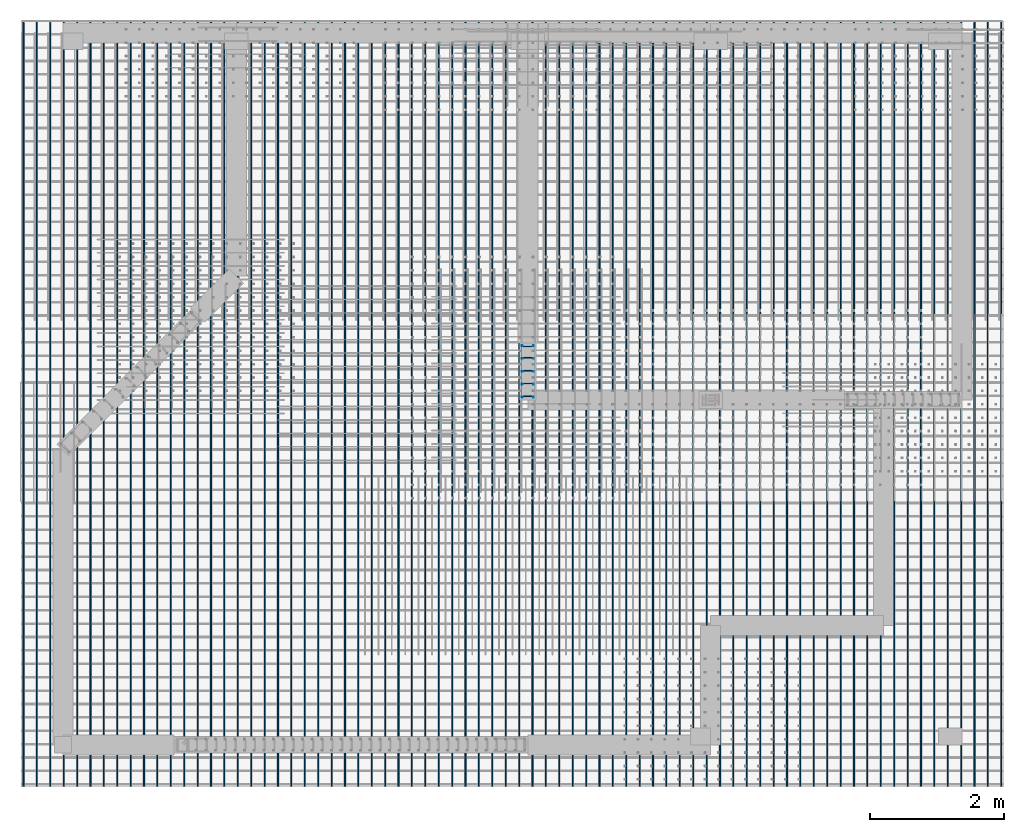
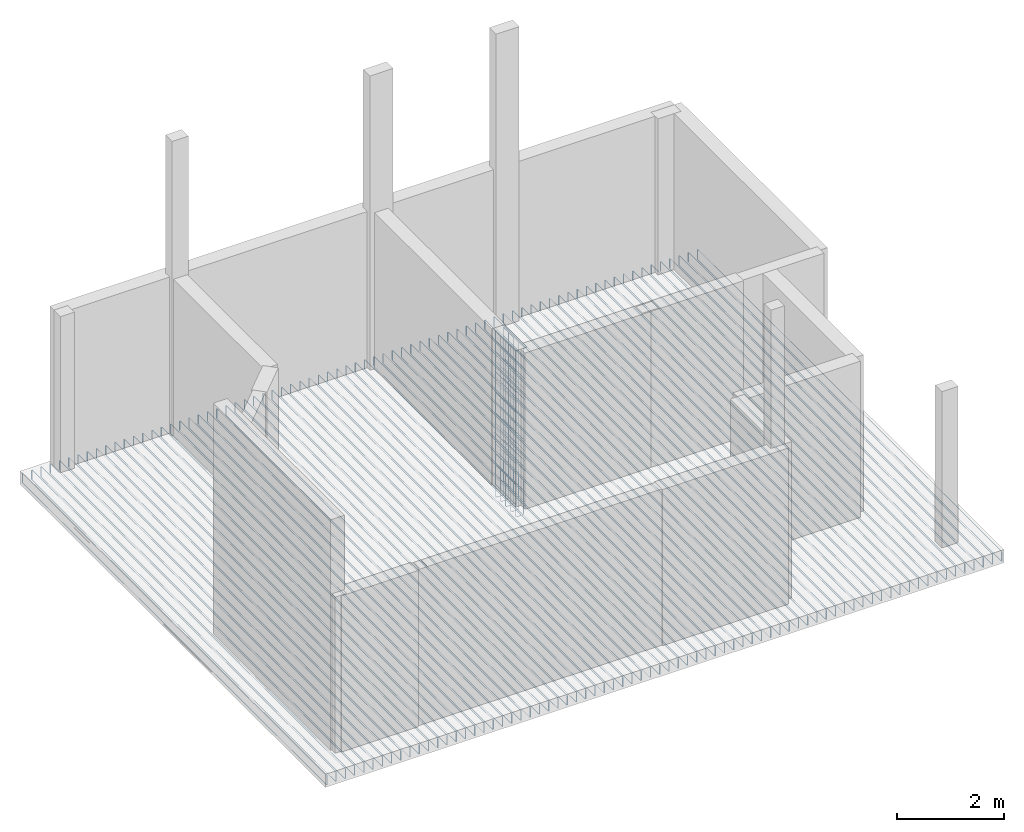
# One storey, part 5 of 8: 4 reinforcing bars.
"""IFC4 building model written with IfcOpenShell, lengths in metres."""

from ifc_helpers import new_model, entity, si_unit, origin_with_axes, place, context, project, spatial, source, transform, mapped, element, save


model = new_model("IFC4")

# Units and contexts
model_context = context("Model", 3, precision=1e-05, world=origin_with_axes())
ifc_project = project(units=[si_unit("LENGTHUNIT", "METRE"), si_unit("AREAUNIT", "SQUARE_METRE"), si_unit("VOLUMEUNIT", "CUBIC_METRE"), si_unit("MASSUNIT", "GRAM", prefix="KILO"), si_unit("TIMEUNIT", "SECOND"), si_unit("PLANEANGLEUNIT", "RADIAN"), si_unit("SOLIDANGLEUNIT", "STERADIAN"), si_unit("THERMODYNAMICTEMPERATUREUNIT", "DEGREE_CELSIUS")], contexts=[model_context])

# Site, building, storey
placement_1 = place(None, origin_with_axes())
site = spatial("IfcSite", under=ifc_project, at=placement_1, Name="Italia", CompositionType="ELEMENT")
building = spatial("IfcBuilding", under=site, at=placement_1, Name="Abitazione", CompositionType="ELEMENT")
storey = spatial("IfcBuildingStorey", under=building, at=placement_1, Name="Storey 0", CompositionType="ELEMENT", Elevation=0.0)

# Reinforcing bars
shared_shape_1 = source(origin_with_axes(), model_context, "Body", "AdvancedSweptSolid", [
    entity("IfcSweptDiskSolid", entity("IfcIndexedPolyCurve", entity("IfcCartesianPointList3D", [[8.046, 6.749, 0.0], [8.046, 6.749, 3.545]]), [entity("IfcLineIndex", [1, 2])], False), 0.006),
])
placement_2 = place(placement_1, origin_with_axes())
reinforcing_bar_1_placement = place(placement_2, origin_with_axes())
element("IfcReinforcingBar", 1, at=reinforcing_bar_1_placement, inside=storey, BarLength=3.545, CrossSectionArea=0.0001131, NominalDiameter=0.012, context=model_context, shape_type="MappedRepresentation", body=[
    mapped(shared_shape_1, transform((0.0, -0.576001, 0.0), x_axis=(1.0, 0.0, 0.0), y_axis=(0.0, 1.0, 0.0), z_axis=(0.0, 0.0, 1.0), scale=1.0)),
    mapped(shared_shape_1, transform((0.167999, -0.384, 0.0), x_axis=(1.0, 0.0, 0.0), y_axis=(0.0, 1.0, 0.0), z_axis=(0.0, 0.0, 1.0), scale=1.0)),
    mapped(shared_shape_1, transform((0.0, -0.768001, 0.0), x_axis=(1.0, 0.0, 0.0), y_axis=(0.0, 1.0, 0.0), z_axis=(0.0, 0.0, 1.0), scale=1.0)),
    mapped(shared_shape_1, transform((0.167999, -0.576001, 0.0), x_axis=(1.0, 0.0, 0.0), y_axis=(0.0, 1.0, 0.0), z_axis=(0.0, 0.0, 1.0), scale=1.0)),
    mapped(shared_shape_1, transform((0.0, 0.0, 0.0), x_axis=(1.0, 0.0, 0.0), y_axis=(0.0, 1.0, 0.0), z_axis=(0.0, 0.0, 1.0), scale=1.0)),
    mapped(shared_shape_1, transform((0.167999, -0.768001, 0.0), x_axis=(1.0, 0.0, 0.0), y_axis=(0.0, 1.0, 0.0), z_axis=(0.0, 0.0, 1.0), scale=1.0)),
    mapped(shared_shape_1, transform((0.0, -0.192, 0.0), x_axis=(1.0, 0.0, 0.0), y_axis=(0.0, 1.0, 0.0), z_axis=(0.0, 0.0, 1.0), scale=1.0)),
    mapped(shared_shape_1, transform((0.167999, 0.0, 0.0), x_axis=(1.0, 0.0, 0.0), y_axis=(0.0, 1.0, 0.0), z_axis=(0.0, 0.0, 1.0), scale=1.0)),
    mapped(shared_shape_1, transform((0.0, -0.384, 0.0), x_axis=(1.0, 0.0, 0.0), y_axis=(0.0, 1.0, 0.0), z_axis=(0.0, 0.0, 1.0), scale=1.0)),
    mapped(shared_shape_1, transform((0.167999, -0.192, 0.0), x_axis=(1.0, 0.0, 0.0), y_axis=(0.0, 1.0, 0.0), z_axis=(0.0, 0.0, 1.0), scale=1.0)),
])
shared_shape_2 = source(origin_with_axes(), model_context, "Body", "AdvancedSweptSolid", [
    entity("IfcSweptDiskSolid", entity("IfcIndexedPolyCurve", entity("IfcCartesianPointList3D", [[8.046, 6.737, 0.5], [8.046, 6.737, -0.245], [8.04828, 6.737, -0.256481], [8.05479, 6.737, -0.266213], [8.06452, 6.737, -0.272716], [8.076, 6.737, -0.275], [8.146, 6.737, -0.275]]), [entity("IfcLineIndex", [1, 2]), entity("IfcLineIndex", [2, 3]), entity("IfcLineIndex", [3, 4]), entity("IfcLineIndex", [4, 5]), entity("IfcLineIndex", [5, 6]), entity("IfcLineIndex", [6, 7])], False), 0.006),
])
reinforcing_bar_2_placement = place(placement_2, origin_with_axes())
element("IfcReinforcingBar", 2, at=reinforcing_bar_2_placement, inside=storey, BarLength=0.861821, CrossSectionArea=0.0001131, NominalDiameter=0.012, context=model_context, shape_type="MappedRepresentation", body=[
    mapped(shared_shape_2, transform((0.0, -0.552001, 0.0), x_axis=(1.0, 0.0, 0.0), y_axis=(0.0, 1.0, 0.0), z_axis=(0.0, 0.0, 1.0), scale=1.0)),
    mapped(shared_shape_2, transform((16.26, 13.114, 0.0), x_axis=(-1.0, 0.0, 0.0), y_axis=(0.0, -1.0, 0.0), z_axis=(0.0, 0.0, 1.0), scale=1.0)),
    mapped(shared_shape_2, transform((0.0, -0.744001, 0.0), x_axis=(1.0, 0.0, 0.0), y_axis=(0.0, 1.0, 0.0), z_axis=(0.0, 0.0, 1.0), scale=1.0)),
    mapped(shared_shape_2, transform((16.26, 12.922, 0.0), x_axis=(-1.0, 0.0, 0.0), y_axis=(0.0, -1.0, 0.0), z_axis=(0.0, 0.0, 1.0), scale=1.0)),
    mapped(shared_shape_2, transform((0.0, 0.0, 0.0), x_axis=(1.0, 0.0, 0.0), y_axis=(0.0, 1.0, 0.0), z_axis=(0.0, 0.0, 1.0), scale=1.0)),
    mapped(shared_shape_2, transform((16.26, 12.73, 0.0), x_axis=(-1.0, 0.0, 0.0), y_axis=(0.0, -1.0, 0.0), z_axis=(0.0, 0.0, 1.0), scale=1.0)),
    mapped(shared_shape_2, transform((0.0, -0.168, 0.0), x_axis=(1.0, 0.0, 0.0), y_axis=(0.0, 1.0, 0.0), z_axis=(0.0, 0.0, 1.0), scale=1.0)),
    mapped(shared_shape_2, transform((16.26, 13.474, 0.0), x_axis=(-1.0, 0.0, 0.0), y_axis=(0.0, -1.0, 0.0), z_axis=(0.0, 0.0, 1.0), scale=1.0)),
    mapped(shared_shape_2, transform((0.0, -0.360001, 0.0), x_axis=(1.0, 0.0, 0.0), y_axis=(0.0, 1.0, 0.0), z_axis=(0.0, 0.0, 1.0), scale=1.0)),
    mapped(shared_shape_2, transform((16.26, 13.306, 0.0), x_axis=(-1.0, 0.0, 0.0), y_axis=(0.0, -1.0, 0.0), z_axis=(0.0, 0.0, 1.0), scale=1.0)),
])
shared_shape_3 = source(origin_with_axes(), model_context, "Body", "AdvancedSweptSolid", [
    entity("IfcSweptDiskSolid", entity("IfcIndexedPolyCurve", entity("IfcCartesianPointList3D", [[8.225, 6.76, 0.03], [8.225, 5.97, 0.03]]), [entity("IfcLineIndex", [1, 2])], False), 0.005),
])
reinforcing_bar_3_placement = place(placement_2, origin_with_axes())
element("IfcReinforcingBar", 3, at=reinforcing_bar_3_placement, inside=storey, BarLength=0.79, CrossSectionArea=7.854e-05, NominalDiameter=0.01, context=model_context, shape_type="MappedRepresentation", body=[
    mapped(shared_shape_3, transform((0.0, 0.0, 2.34), x_axis=(1.0, 0.0, 0.0), y_axis=(0.0, 1.0, 0.0), z_axis=(0.0, 0.0, 1.0), scale=1.0)),
    mapped(shared_shape_3, transform((0.0, 0.0, 2.574), x_axis=(1.0, 0.0, 0.0), y_axis=(0.0, 1.0, 0.0), z_axis=(0.0, 0.0, 1.0), scale=1.0)),
    mapped(shared_shape_3, transform((0.0, 0.0, 1.872), x_axis=(1.0, 0.0, 0.0), y_axis=(0.0, 1.0, 0.0), z_axis=(0.0, 0.0, 1.0), scale=1.0)),
    mapped(shared_shape_3, transform((0.0, 0.0, 2.106), x_axis=(1.0, 0.0, 0.0), y_axis=(0.0, 1.0, 0.0), z_axis=(0.0, 0.0, 1.0), scale=1.0)),
    mapped(shared_shape_3, transform((0.0, 0.0, 3.276), x_axis=(1.0, 0.0, 0.0), y_axis=(0.0, 1.0, 0.0), z_axis=(0.0, 0.0, 1.0), scale=1.0)),
    mapped(shared_shape_3, transform((0.0, 0.0, 3.51), x_axis=(1.0, 0.0, 0.0), y_axis=(0.0, 1.0, 0.0), z_axis=(0.0, 0.0, 1.0), scale=1.0)),
    mapped(shared_shape_3, transform((0.0, 0.0, 2.808), x_axis=(1.0, 0.0, 0.0), y_axis=(0.0, 1.0, 0.0), z_axis=(0.0, 0.0, 1.0), scale=1.0)),
    mapped(shared_shape_3, transform((0.0, 0.0, 3.042), x_axis=(1.0, 0.0, 0.0), y_axis=(0.0, 1.0, 0.0), z_axis=(0.0, 0.0, 1.0), scale=1.0)),
    mapped(shared_shape_3, transform((0.0, 0.0, 0.468), x_axis=(1.0, 0.0, 0.0), y_axis=(0.0, 1.0, 0.0), z_axis=(0.0, 0.0, 1.0), scale=1.0)),
    mapped(shared_shape_3, transform((0.0, 0.0, 0.702), x_axis=(1.0, 0.0, 0.0), y_axis=(0.0, 1.0, 0.0), z_axis=(0.0, 0.0, 1.0), scale=1.0)),
    mapped(shared_shape_3, transform((16.26, 12.73, 0.0), x_axis=(-1.0, 0.0, 0.0), y_axis=(0.0, -1.0, 0.0), z_axis=(0.0, 0.0, 1.0), scale=1.0)),
    mapped(shared_shape_3, transform((0.0, 0.0, 0.0), x_axis=(1.0, 0.0, 0.0), y_axis=(0.0, 1.0, 0.0), z_axis=(0.0, 0.0, 1.0), scale=1.0)),
    mapped(shared_shape_3, transform((16.26, 12.73, 0.234), x_axis=(-1.0, 0.0, 0.0), y_axis=(0.0, -1.0, 0.0), z_axis=(0.0, 0.0, 1.0), scale=1.0)),
    mapped(shared_shape_3, transform((0.0, 0.0, 0.234), x_axis=(1.0, 0.0, 0.0), y_axis=(0.0, 1.0, 0.0), z_axis=(0.0, 0.0, 1.0), scale=1.0)),
    mapped(shared_shape_3, transform((16.26, 12.73, 0.468), x_axis=(-1.0, 0.0, 0.0), y_axis=(0.0, -1.0, 0.0), z_axis=(0.0, 0.0, 1.0), scale=1.0)),
    mapped(shared_shape_3, transform((16.26, 12.73, 0.702), x_axis=(-1.0, 0.0, 0.0), y_axis=(0.0, -1.0, 0.0), z_axis=(0.0, 0.0, 1.0), scale=1.0)),
    mapped(shared_shape_3, transform((0.0, 0.0, 1.404), x_axis=(1.0, 0.0, 0.0), y_axis=(0.0, 1.0, 0.0), z_axis=(0.0, 0.0, 1.0), scale=1.0)),
    mapped(shared_shape_3, transform((0.0, 0.0, 1.638), x_axis=(1.0, 0.0, 0.0), y_axis=(0.0, 1.0, 0.0), z_axis=(0.0, 0.0, 1.0), scale=1.0)),
    mapped(shared_shape_3, transform((16.26, 12.73, 0.936), x_axis=(-1.0, 0.0, 0.0), y_axis=(0.0, -1.0, 0.0), z_axis=(0.0, 0.0, 1.0), scale=1.0)),
    mapped(shared_shape_3, transform((0.0, 0.0, 0.936), x_axis=(1.0, 0.0, 0.0), y_axis=(0.0, 1.0, 0.0), z_axis=(0.0, 0.0, 1.0), scale=1.0)),
    mapped(shared_shape_3, transform((16.26, 12.73, 1.17), x_axis=(-1.0, 0.0, 0.0), y_axis=(0.0, -1.0, 0.0), z_axis=(0.0, 0.0, 1.0), scale=1.0)),
    mapped(shared_shape_3, transform((0.0, 0.0, 1.17), x_axis=(1.0, 0.0, 0.0), y_axis=(0.0, 1.0, 0.0), z_axis=(0.0, 0.0, 1.0), scale=1.0)),
    mapped(shared_shape_3, transform((16.26, 12.73, 2.34), x_axis=(-1.0, 0.0, 0.0), y_axis=(0.0, -1.0, 0.0), z_axis=(0.0, 0.0, 1.0), scale=1.0)),
    mapped(shared_shape_3, transform((16.26, 12.73, 2.574), x_axis=(-1.0, 0.0, 0.0), y_axis=(0.0, -1.0, 0.0), z_axis=(0.0, 0.0, 1.0), scale=1.0)),
    mapped(shared_shape_3, transform((16.26, 12.73, 1.872), x_axis=(-1.0, 0.0, 0.0), y_axis=(0.0, -1.0, 0.0), z_axis=(0.0, 0.0, 1.0), scale=1.0)),
    mapped(shared_shape_3, transform((16.26, 12.73, 2.106), x_axis=(-1.0, 0.0, 0.0), y_axis=(0.0, -1.0, 0.0), z_axis=(0.0, 0.0, 1.0), scale=1.0)),
    mapped(shared_shape_3, transform((16.26, 12.73, 3.276), x_axis=(-1.0, 0.0, 0.0), y_axis=(0.0, -1.0, 0.0), z_axis=(0.0, 0.0, 1.0), scale=1.0)),
    mapped(shared_shape_3, transform((16.26, 12.73, 3.51), x_axis=(-1.0, 0.0, 0.0), y_axis=(0.0, -1.0, 0.0), z_axis=(0.0, 0.0, 1.0), scale=1.0)),
    mapped(shared_shape_3, transform((16.26, 12.73, 2.808), x_axis=(-1.0, 0.0, 0.0), y_axis=(0.0, -1.0, 0.0), z_axis=(0.0, 0.0, 1.0), scale=1.0)),
    mapped(shared_shape_3, transform((16.26, 12.73, 3.042), x_axis=(-1.0, 0.0, 0.0), y_axis=(0.0, -1.0, 0.0), z_axis=(0.0, 0.0, 1.0), scale=1.0)),
    mapped(shared_shape_3, transform((16.26, 12.73, 1.404), x_axis=(-1.0, 0.0, 0.0), y_axis=(0.0, -1.0, 0.0), z_axis=(0.0, 0.0, 1.0), scale=1.0)),
    mapped(shared_shape_3, transform((16.26, 12.73, 1.638), x_axis=(-1.0, 0.0, 0.0), y_axis=(0.0, -1.0, 0.0), z_axis=(0.0, 0.0, 1.0), scale=1.0)),
])
shared_shape_4 = source(origin_with_axes(), model_context, "Body", "AdvancedSweptSolid", [
    entity("IfcSweptDiskSolid", entity("IfcIndexedPolyCurve", entity("IfcCartesianPointList3D", [[0.606, 0.172, -0.258], [0.606, 0.172, -0.052], [0.606, 0.172761, -0.0481732], [0.606, 0.174929, -0.0449289], [0.606, 0.178173, -0.0427612], [0.606, 0.182, -0.042], [0.606, 11.566, -0.042], [0.606, 11.5698, -0.0427612], [0.606, 11.5731, -0.0449289], [0.606, 11.5752, -0.0481732], [0.606, 11.576, -0.052], [0.606, 11.576, -0.258]]), [entity("IfcLineIndex", [1, 2]), entity("IfcLineIndex", [2, 3]), entity("IfcLineIndex", [3, 4]), entity("IfcLineIndex", [4, 5]), entity("IfcLineIndex", [5, 6]), entity("IfcLineIndex", [6, 7]), entity("IfcLineIndex", [7, 8]), entity("IfcLineIndex", [8, 9]), entity("IfcLineIndex", [9, 10]), entity("IfcLineIndex", [10, 11]), entity("IfcLineIndex", [11, 12])], False), 0.006),
])
reinforcing_bar_4_placement = place(placement_2, origin_with_axes())
element("IfcReinforcingBar", 4, at=reinforcing_bar_4_placement, inside=storey, BarLength=11.8272, CrossSectionArea=0.0001131, NominalDiameter=0.012, context=model_context, shape_type="MappedRepresentation", body=[
    mapped(shared_shape_4, transform((8.0, 0.0, -0.3), x_axis=(-1.0, 0.0, 0.0), y_axis=(0.0, 1.0, 0.0), z_axis=(0.0, 0.0, -1.0), scale=1.0)),
    mapped(shared_shape_4, transform((7.8, 0.0, -0.3), x_axis=(-1.0, 0.0, 0.0), y_axis=(0.0, 1.0, 0.0), z_axis=(0.0, 0.0, -1.0), scale=1.0)),
    mapped(shared_shape_4, transform((8.4, 0.0, -0.3), x_axis=(-1.0, 0.0, 0.0), y_axis=(0.0, 1.0, 0.0), z_axis=(0.0, 0.0, -1.0), scale=1.0)),
    mapped(shared_shape_4, transform((8.2, 0.0, -0.3), x_axis=(-1.0, 0.0, 0.0), y_axis=(0.0, 1.0, 0.0), z_axis=(0.0, 0.0, -1.0), scale=1.0)),
    mapped(shared_shape_4, transform((5.4, 0.0, -0.3), x_axis=(-1.0, 0.0, 0.0), y_axis=(0.0, 1.0, 0.0), z_axis=(0.0, 0.0, -1.0), scale=1.0)),
    mapped(shared_shape_4, transform((5.2, 0.0, -0.3), x_axis=(-1.0, 0.0, 0.0), y_axis=(0.0, 1.0, 0.0), z_axis=(0.0, 0.0, -1.0), scale=1.0)),
    mapped(shared_shape_4, transform((5.8, 0.0, -0.3), x_axis=(-1.0, 0.0, 0.0), y_axis=(0.0, 1.0, 0.0), z_axis=(0.0, 0.0, -1.0), scale=1.0)),
    mapped(shared_shape_4, transform((5.6, 0.0, -0.3), x_axis=(-1.0, 0.0, 0.0), y_axis=(0.0, 1.0, 0.0), z_axis=(0.0, 0.0, -1.0), scale=1.0)),
    mapped(shared_shape_4, transform((6.4, 0.0, -0.3), x_axis=(-1.0, 0.0, 0.0), y_axis=(0.0, 1.0, 0.0), z_axis=(0.0, 0.0, -1.0), scale=1.0)),
    mapped(shared_shape_4, transform((6.2, 0.0, -0.3), x_axis=(-1.0, 0.0, 0.0), y_axis=(0.0, 1.0, 0.0), z_axis=(0.0, 0.0, -1.0), scale=1.0)),
    mapped(shared_shape_4, transform((5.0, 0.0, -0.3), x_axis=(-1.0, 0.0, 0.0), y_axis=(0.0, 1.0, 0.0), z_axis=(0.0, 0.0, -1.0), scale=1.0)),
    mapped(shared_shape_4, transform((6.6, 0.0, -0.3), x_axis=(-1.0, 0.0, 0.0), y_axis=(0.0, 1.0, 0.0), z_axis=(0.0, 0.0, -1.0), scale=1.0)),
    mapped(shared_shape_4, transform((7.4, 0.0, -0.3), x_axis=(-1.0, 0.0, 0.0), y_axis=(0.0, 1.0, 0.0), z_axis=(0.0, 0.0, -1.0), scale=1.0)),
    mapped(shared_shape_4, transform((7.2, 0.0, -0.3), x_axis=(-1.0, 0.0, 0.0), y_axis=(0.0, 1.0, 0.0), z_axis=(0.0, 0.0, -1.0), scale=1.0)),
    mapped(shared_shape_4, transform((6.0, 0.0, -0.3), x_axis=(-1.0, 0.0, 0.0), y_axis=(0.0, 1.0, 0.0), z_axis=(0.0, 0.0, -1.0), scale=1.0)),
    mapped(shared_shape_4, transform((7.6, 0.0, -0.3), x_axis=(-1.0, 0.0, 0.0), y_axis=(0.0, 1.0, 0.0), z_axis=(0.0, 0.0, -1.0), scale=1.0)),
    mapped(shared_shape_4, transform((4.8, 0.0, -0.3), x_axis=(-1.0, 0.0, 0.0), y_axis=(0.0, 1.0, 0.0), z_axis=(0.0, 0.0, -1.0), scale=1.0)),
    mapped(shared_shape_4, transform((4.6, 0.0, -0.3), x_axis=(-1.0, 0.0, 0.0), y_axis=(0.0, 1.0, 0.0), z_axis=(0.0, 0.0, -1.0), scale=1.0)),
    mapped(shared_shape_4, transform((7.0, 0.0, -0.3), x_axis=(-1.0, 0.0, 0.0), y_axis=(0.0, 1.0, 0.0), z_axis=(0.0, 0.0, -1.0), scale=1.0)),
    mapped(shared_shape_4, transform((6.8, 0.0, -0.3), x_axis=(-1.0, 0.0, 0.0), y_axis=(0.0, 1.0, 0.0), z_axis=(0.0, 0.0, -1.0), scale=1.0)),
    mapped(shared_shape_4, transform((2.2, 0.0, -0.3), x_axis=(-1.0, 0.0, 0.0), y_axis=(0.0, 1.0, 0.0), z_axis=(0.0, 0.0, -1.0), scale=1.0)),
    mapped(shared_shape_4, transform((2.0, 0.0, -0.3), x_axis=(-1.0, 0.0, 0.0), y_axis=(0.0, 1.0, 0.0), z_axis=(0.0, 0.0, -1.0), scale=1.0)),
    mapped(shared_shape_4, transform((4.4, 0.0, -0.3), x_axis=(-1.0, 0.0, 0.0), y_axis=(0.0, 1.0, 0.0), z_axis=(0.0, 0.0, -1.0), scale=1.0)),
    mapped(shared_shape_4, transform((4.2, 0.0, -0.3), x_axis=(-1.0, 0.0, 0.0), y_axis=(0.0, 1.0, 0.0), z_axis=(0.0, 0.0, -1.0), scale=1.0)),
    mapped(shared_shape_4, transform((1.4, 0.0, -0.3), x_axis=(-1.0, 0.0, 0.0), y_axis=(0.0, 1.0, 0.0), z_axis=(0.0, 0.0, -1.0), scale=1.0)),
    mapped(shared_shape_4, transform((3.0, 0.0, -0.3), x_axis=(-1.0, 0.0, 0.0), y_axis=(0.0, 1.0, 0.0), z_axis=(0.0, 0.0, -1.0), scale=1.0)),
    mapped(shared_shape_4, transform((1.8, 0.0, -0.3), x_axis=(-1.0, 0.0, 0.0), y_axis=(0.0, 1.0, 0.0), z_axis=(0.0, 0.0, -1.0), scale=1.0)),
    mapped(shared_shape_4, transform((1.6, 0.0, -0.3), x_axis=(-1.0, 0.0, 0.0), y_axis=(0.0, 1.0, 0.0), z_axis=(0.0, 0.0, -1.0), scale=1.0)),
    mapped(shared_shape_4, transform((2.4, 0.0, -0.3), x_axis=(-1.0, 0.0, 0.0), y_axis=(0.0, 1.0, 0.0), z_axis=(0.0, 0.0, -1.0), scale=1.0)),
    mapped(shared_shape_4, transform((4.0, 0.0, -0.3), x_axis=(-1.0, 0.0, 0.0), y_axis=(0.0, 1.0, 0.0), z_axis=(0.0, 0.0, -1.0), scale=1.0)),
    mapped(shared_shape_4, transform((2.8, 0.0, -0.3), x_axis=(-1.0, 0.0, 0.0), y_axis=(0.0, 1.0, 0.0), z_axis=(0.0, 0.0, -1.0), scale=1.0)),
    mapped(shared_shape_4, transform((2.6, 0.0, -0.3), x_axis=(-1.0, 0.0, 0.0), y_axis=(0.0, 1.0, 0.0), z_axis=(0.0, 0.0, -1.0), scale=1.0)),
    mapped(shared_shape_4, transform((3.4, 0.0, -0.3), x_axis=(-1.0, 0.0, 0.0), y_axis=(0.0, 1.0, 0.0), z_axis=(0.0, 0.0, -1.0), scale=1.0)),
    mapped(shared_shape_4, transform((3.2, 0.0, -0.3), x_axis=(-1.0, 0.0, 0.0), y_axis=(0.0, 1.0, 0.0), z_axis=(0.0, 0.0, -1.0), scale=1.0)),
    mapped(shared_shape_4, transform((3.8, 0.0, -0.3), x_axis=(-1.0, 0.0, 0.0), y_axis=(0.0, 1.0, 0.0), z_axis=(0.0, 0.0, -1.0), scale=1.0)),
    mapped(shared_shape_4, transform((3.6, 0.0, -0.3), x_axis=(-1.0, 0.0, 0.0), y_axis=(0.0, 1.0, 0.0), z_axis=(0.0, 0.0, -1.0), scale=1.0)),
    mapped(shared_shape_4, transform((15.6, 0.0, -0.3), x_axis=(-1.0, 0.0, 0.0), y_axis=(0.0, 1.0, 0.0), z_axis=(0.0, 0.0, -1.0), scale=1.0)),
    mapped(shared_shape_4, transform((15.4, 0.0, -0.3), x_axis=(-1.0, 0.0, 0.0), y_axis=(0.0, 1.0, 0.0), z_axis=(0.0, 0.0, -1.0), scale=1.0)),
    mapped(shared_shape_4, transform((1.2, 0.0, -0.3), x_axis=(-1.0, 0.0, 0.0), y_axis=(0.0, 1.0, 0.0), z_axis=(0.0, 0.0, -1.0), scale=1.0)),
    mapped(shared_shape_4, transform((15.8, 0.0, -0.3), x_axis=(-1.0, 0.0, 0.0), y_axis=(0.0, 1.0, 0.0), z_axis=(0.0, 0.0, -1.0), scale=1.0)),
    mapped(shared_shape_4, transform((13.0, 0.0, -0.3), x_axis=(-1.0, 0.0, 0.0), y_axis=(0.0, 1.0, 0.0), z_axis=(0.0, 0.0, -1.0), scale=1.0)),
    mapped(shared_shape_4, transform((12.8, 0.0, -0.3), x_axis=(-1.0, 0.0, 0.0), y_axis=(0.0, 1.0, 0.0), z_axis=(0.0, 0.0, -1.0), scale=1.0)),
    mapped(shared_shape_4, transform((13.4, 0.0, -0.3), x_axis=(-1.0, 0.0, 0.0), y_axis=(0.0, 1.0, 0.0), z_axis=(0.0, 0.0, -1.0), scale=1.0)),
    mapped(shared_shape_4, transform((13.2, 0.0, -0.3), x_axis=(-1.0, 0.0, 0.0), y_axis=(0.0, 1.0, 0.0), z_axis=(0.0, 0.0, -1.0), scale=1.0)),
    mapped(shared_shape_4, transform((14.0, 0.0, -0.3), x_axis=(-1.0, 0.0, 0.0), y_axis=(0.0, 1.0, 0.0), z_axis=(0.0, 0.0, -1.0), scale=1.0)),
    mapped(shared_shape_4, transform((13.8, 0.0, -0.3), x_axis=(-1.0, 0.0, 0.0), y_axis=(0.0, 1.0, 0.0), z_axis=(0.0, 0.0, -1.0), scale=1.0)),
    mapped(shared_shape_4, transform((12.6, 0.0, -0.3), x_axis=(-1.0, 0.0, 0.0), y_axis=(0.0, 1.0, 0.0), z_axis=(0.0, 0.0, -1.0), scale=1.0)),
    mapped(shared_shape_4, transform((14.2, 0.0, -0.3), x_axis=(-1.0, 0.0, 0.0), y_axis=(0.0, 1.0, 0.0), z_axis=(0.0, 0.0, -1.0), scale=1.0)),
    mapped(shared_shape_4, transform((15.0, 0.0, -0.3), x_axis=(-1.0, 0.0, 0.0), y_axis=(0.0, 1.0, 0.0), z_axis=(0.0, 0.0, -1.0), scale=1.0)),
    mapped(shared_shape_4, transform((14.8, 0.0, -0.3), x_axis=(-1.0, 0.0, 0.0), y_axis=(0.0, 1.0, 0.0), z_axis=(0.0, 0.0, -1.0), scale=1.0)),
    mapped(shared_shape_4, transform((13.6, 0.0, -0.3), x_axis=(-1.0, 0.0, 0.0), y_axis=(0.0, 1.0, 0.0), z_axis=(0.0, 0.0, -1.0), scale=1.0)),
    mapped(shared_shape_4, transform((15.2, 0.0, -0.3), x_axis=(-1.0, 0.0, 0.0), y_axis=(0.0, 1.0, 0.0), z_axis=(0.0, 0.0, -1.0), scale=1.0)),
    mapped(shared_shape_4, transform((12.4, 0.0, -0.3), x_axis=(-1.0, 0.0, 0.0), y_axis=(0.0, 1.0, 0.0), z_axis=(0.0, 0.0, -1.0), scale=1.0)),
    mapped(shared_shape_4, transform((12.2, 0.0, -0.3), x_axis=(-1.0, 0.0, 0.0), y_axis=(0.0, 1.0, 0.0), z_axis=(0.0, 0.0, -1.0), scale=1.0)),
    mapped(shared_shape_4, transform((14.6, 0.0, -0.3), x_axis=(-1.0, 0.0, 0.0), y_axis=(0.0, 1.0, 0.0), z_axis=(0.0, 0.0, -1.0), scale=1.0)),
    mapped(shared_shape_4, transform((14.4, 0.0, -0.3), x_axis=(-1.0, 0.0, 0.0), y_axis=(0.0, 1.0, 0.0), z_axis=(0.0, 0.0, -1.0), scale=1.0)),
    mapped(shared_shape_4, transform((9.8, 0.0, -0.3), x_axis=(-1.0, 0.0, 0.0), y_axis=(0.0, 1.0, 0.0), z_axis=(0.0, 0.0, -1.0), scale=1.0)),
    mapped(shared_shape_4, transform((9.6, 0.0, -0.3), x_axis=(-1.0, 0.0, 0.0), y_axis=(0.0, 1.0, 0.0), z_axis=(0.0, 0.0, -1.0), scale=1.0)),
    mapped(shared_shape_4, transform((12.0, 0.0, -0.3), x_axis=(-1.0, 0.0, 0.0), y_axis=(0.0, 1.0, 0.0), z_axis=(0.0, 0.0, -1.0), scale=1.0)),
    mapped(shared_shape_4, transform((11.8, 0.0, -0.3), x_axis=(-1.0, 0.0, 0.0), y_axis=(0.0, 1.0, 0.0), z_axis=(0.0, 0.0, -1.0), scale=1.0)),
    mapped(shared_shape_4, transform((9.0, 0.0, -0.3), x_axis=(-1.0, 0.0, 0.0), y_axis=(0.0, 1.0, 0.0), z_axis=(0.0, 0.0, -1.0), scale=1.0)),
    mapped(shared_shape_4, transform((10.6, 0.0, -0.3), x_axis=(-1.0, 0.0, 0.0), y_axis=(0.0, 1.0, 0.0), z_axis=(0.0, 0.0, -1.0), scale=1.0)),
    mapped(shared_shape_4, transform((9.4, 0.0, -0.3), x_axis=(-1.0, 0.0, 0.0), y_axis=(0.0, 1.0, 0.0), z_axis=(0.0, 0.0, -1.0), scale=1.0)),
    mapped(shared_shape_4, transform((9.2, 0.0, -0.3), x_axis=(-1.0, 0.0, 0.0), y_axis=(0.0, 1.0, 0.0), z_axis=(0.0, 0.0, -1.0), scale=1.0)),
    mapped(shared_shape_4, transform((10.0, 0.0, -0.3), x_axis=(-1.0, 0.0, 0.0), y_axis=(0.0, 1.0, 0.0), z_axis=(0.0, 0.0, -1.0), scale=1.0)),
    mapped(shared_shape_4, transform((11.6, 0.0, -0.3), x_axis=(-1.0, 0.0, 0.0), y_axis=(0.0, 1.0, 0.0), z_axis=(0.0, 0.0, -1.0), scale=1.0)),
    mapped(shared_shape_4, transform((10.4, 0.0, -0.3), x_axis=(-1.0, 0.0, 0.0), y_axis=(0.0, 1.0, 0.0), z_axis=(0.0, 0.0, -1.0), scale=1.0)),
    mapped(shared_shape_4, transform((10.2, 0.0, -0.3), x_axis=(-1.0, 0.0, 0.0), y_axis=(0.0, 1.0, 0.0), z_axis=(0.0, 0.0, -1.0), scale=1.0)),
    mapped(shared_shape_4, transform((11.0, 0.0, -0.3), x_axis=(-1.0, 0.0, 0.0), y_axis=(0.0, 1.0, 0.0), z_axis=(0.0, 0.0, -1.0), scale=1.0)),
    mapped(shared_shape_4, transform((10.8, 0.0, -0.3), x_axis=(-1.0, 0.0, 0.0), y_axis=(0.0, 1.0, 0.0), z_axis=(0.0, 0.0, -1.0), scale=1.0)),
    mapped(shared_shape_4, transform((11.4, 0.0, -0.3), x_axis=(-1.0, 0.0, 0.0), y_axis=(0.0, 1.0, 0.0), z_axis=(0.0, 0.0, -1.0), scale=1.0)),
    mapped(shared_shape_4, transform((11.2, 0.0, -0.3), x_axis=(-1.0, 0.0, 0.0), y_axis=(0.0, 1.0, 0.0), z_axis=(0.0, 0.0, -1.0), scale=1.0)),
    mapped(shared_shape_4, transform((7.2, 0.0, 0.0), x_axis=(1.0, 0.0, 0.0), y_axis=(0.0, 1.0, 0.0), z_axis=(0.0, 0.0, 1.0), scale=1.0)),
    mapped(shared_shape_4, transform((7.0, 0.0, 0.0), x_axis=(1.0, 0.0, 0.0), y_axis=(0.0, 1.0, 0.0), z_axis=(0.0, 0.0, 1.0), scale=1.0)),
    mapped(shared_shape_4, transform((8.8, 0.0, -0.3), x_axis=(-1.0, 0.0, 0.0), y_axis=(0.0, 1.0, 0.0), z_axis=(0.0, 0.0, -1.0), scale=1.0)),
    mapped(shared_shape_4, transform((8.6, 0.0, -0.3), x_axis=(-1.0, 0.0, 0.0), y_axis=(0.0, 1.0, 0.0), z_axis=(0.0, 0.0, -1.0), scale=1.0)),
    mapped(shared_shape_4, transform((4.6, 0.0, 0.0), x_axis=(1.0, 0.0, 0.0), y_axis=(0.0, 1.0, 0.0), z_axis=(0.0, 0.0, 1.0), scale=1.0)),
    mapped(shared_shape_4, transform((4.4, 0.0, 0.0), x_axis=(1.0, 0.0, 0.0), y_axis=(0.0, 1.0, 0.0), z_axis=(0.0, 0.0, 1.0), scale=1.0)),
    mapped(shared_shape_4, transform((5.0, 0.0, 0.0), x_axis=(1.0, 0.0, 0.0), y_axis=(0.0, 1.0, 0.0), z_axis=(0.0, 0.0, 1.0), scale=1.0)),
    mapped(shared_shape_4, transform((4.8, 0.0, 0.0), x_axis=(1.0, 0.0, 0.0), y_axis=(0.0, 1.0, 0.0), z_axis=(0.0, 0.0, 1.0), scale=1.0)),
    mapped(shared_shape_4, transform((5.6, 0.0, 0.0), x_axis=(1.0, 0.0, 0.0), y_axis=(0.0, 1.0, 0.0), z_axis=(0.0, 0.0, 1.0), scale=1.0)),
    mapped(shared_shape_4, transform((5.4, 0.0, 0.0), x_axis=(1.0, 0.0, 0.0), y_axis=(0.0, 1.0, 0.0), z_axis=(0.0, 0.0, 1.0), scale=1.0)),
    mapped(shared_shape_4, transform((4.2, 0.0, 0.0), x_axis=(1.0, 0.0, 0.0), y_axis=(0.0, 1.0, 0.0), z_axis=(0.0, 0.0, 1.0), scale=1.0)),
    mapped(shared_shape_4, transform((5.8, 0.0, 0.0), x_axis=(1.0, 0.0, 0.0), y_axis=(0.0, 1.0, 0.0), z_axis=(0.0, 0.0, 1.0), scale=1.0)),
    mapped(shared_shape_4, transform((6.6, 0.0, 0.0), x_axis=(1.0, 0.0, 0.0), y_axis=(0.0, 1.0, 0.0), z_axis=(0.0, 0.0, 1.0), scale=1.0)),
    mapped(shared_shape_4, transform((6.4, 0.0, 0.0), x_axis=(1.0, 0.0, 0.0), y_axis=(0.0, 1.0, 0.0), z_axis=(0.0, 0.0, 1.0), scale=1.0)),
    mapped(shared_shape_4, transform((5.2, 0.0, 0.0), x_axis=(1.0, 0.0, 0.0), y_axis=(0.0, 1.0, 0.0), z_axis=(0.0, 0.0, 1.0), scale=1.0)),
    mapped(shared_shape_4, transform((6.8, 0.0, 0.0), x_axis=(1.0, 0.0, 0.0), y_axis=(0.0, 1.0, 0.0), z_axis=(0.0, 0.0, 1.0), scale=1.0)),
    mapped(shared_shape_4, transform((4.0, 0.0, 0.0), x_axis=(1.0, 0.0, 0.0), y_axis=(0.0, 1.0, 0.0), z_axis=(0.0, 0.0, 1.0), scale=1.0)),
    mapped(shared_shape_4, transform((3.8, 0.0, 0.0), x_axis=(1.0, 0.0, 0.0), y_axis=(0.0, 1.0, 0.0), z_axis=(0.0, 0.0, 1.0), scale=1.0)),
    mapped(shared_shape_4, transform((6.2, 0.0, 0.0), x_axis=(1.0, 0.0, 0.0), y_axis=(0.0, 1.0, 0.0), z_axis=(0.0, 0.0, 1.0), scale=1.0)),
    mapped(shared_shape_4, transform((6.0, 0.0, 0.0), x_axis=(1.0, 0.0, 0.0), y_axis=(0.0, 1.0, 0.0), z_axis=(0.0, 0.0, 1.0), scale=1.0)),
    mapped(shared_shape_4, transform((1.4, 0.0, 0.0), x_axis=(1.0, 0.0, 0.0), y_axis=(0.0, 1.0, 0.0), z_axis=(0.0, 0.0, 1.0), scale=1.0)),
    mapped(shared_shape_4, transform((1.2, 0.0, 0.0), x_axis=(1.0, 0.0, 0.0), y_axis=(0.0, 1.0, 0.0), z_axis=(0.0, 0.0, 1.0), scale=1.0)),
    mapped(shared_shape_4, transform((3.6, 0.0, 0.0), x_axis=(1.0, 0.0, 0.0), y_axis=(0.0, 1.0, 0.0), z_axis=(0.0, 0.0, 1.0), scale=1.0)),
    mapped(shared_shape_4, transform((3.4, 0.0, 0.0), x_axis=(1.0, 0.0, 0.0), y_axis=(0.0, 1.0, 0.0), z_axis=(0.0, 0.0, 1.0), scale=1.0)),
    mapped(shared_shape_4, transform((0.6, 0.0, 0.0), x_axis=(1.0, 0.0, 0.0), y_axis=(0.0, 1.0, 0.0), z_axis=(0.0, 0.0, 1.0), scale=1.0)),
    mapped(shared_shape_4, transform((2.2, 0.0, 0.0), x_axis=(1.0, 0.0, 0.0), y_axis=(0.0, 1.0, 0.0), z_axis=(0.0, 0.0, 1.0), scale=1.0)),
    mapped(shared_shape_4, transform((1.0, 0.0, 0.0), x_axis=(1.0, 0.0, 0.0), y_axis=(0.0, 1.0, 0.0), z_axis=(0.0, 0.0, 1.0), scale=1.0)),
    mapped(shared_shape_4, transform((0.8, 0.0, 0.0), x_axis=(1.0, 0.0, 0.0), y_axis=(0.0, 1.0, 0.0), z_axis=(0.0, 0.0, 1.0), scale=1.0)),
    mapped(shared_shape_4, transform((1.6, 0.0, 0.0), x_axis=(1.0, 0.0, 0.0), y_axis=(0.0, 1.0, 0.0), z_axis=(0.0, 0.0, 1.0), scale=1.0)),
    mapped(shared_shape_4, transform((3.2, 0.0, 0.0), x_axis=(1.0, 0.0, 0.0), y_axis=(0.0, 1.0, 0.0), z_axis=(0.0, 0.0, 1.0), scale=1.0)),
    mapped(shared_shape_4, transform((2.0, 0.0, 0.0), x_axis=(1.0, 0.0, 0.0), y_axis=(0.0, 1.0, 0.0), z_axis=(0.0, 0.0, 1.0), scale=1.0)),
    mapped(shared_shape_4, transform((1.8, 0.0, 0.0), x_axis=(1.0, 0.0, 0.0), y_axis=(0.0, 1.0, 0.0), z_axis=(0.0, 0.0, 1.0), scale=1.0)),
    mapped(shared_shape_4, transform((2.6, 0.0, 0.0), x_axis=(1.0, 0.0, 0.0), y_axis=(0.0, 1.0, 0.0), z_axis=(0.0, 0.0, 1.0), scale=1.0)),
    mapped(shared_shape_4, transform((2.4, 0.0, 0.0), x_axis=(1.0, 0.0, 0.0), y_axis=(0.0, 1.0, 0.0), z_axis=(0.0, 0.0, 1.0), scale=1.0)),
    mapped(shared_shape_4, transform((3.0, 0.0, 0.0), x_axis=(1.0, 0.0, 0.0), y_axis=(0.0, 1.0, 0.0), z_axis=(0.0, 0.0, 1.0), scale=1.0)),
    mapped(shared_shape_4, transform((2.8, 0.0, 0.0), x_axis=(1.0, 0.0, 0.0), y_axis=(0.0, 1.0, 0.0), z_axis=(0.0, 0.0, 1.0), scale=1.0)),
    mapped(shared_shape_4, transform((0.0, 0.0, 0.0), x_axis=(1.0, 0.0, 0.0), y_axis=(0.0, 1.0, 0.0), z_axis=(0.0, 0.0, 1.0), scale=1.0)),
    mapped(shared_shape_4, transform((14.6, 0.0, 0.0), x_axis=(1.0, 0.0, 0.0), y_axis=(0.0, 1.0, 0.0), z_axis=(0.0, 0.0, 1.0), scale=1.0)),
    mapped(shared_shape_4, transform((0.4, 0.0, 0.0), x_axis=(1.0, 0.0, 0.0), y_axis=(0.0, 1.0, 0.0), z_axis=(0.0, 0.0, 1.0), scale=1.0)),
    mapped(shared_shape_4, transform((0.2, 0.0, 0.0), x_axis=(1.0, 0.0, 0.0), y_axis=(0.0, 1.0, 0.0), z_axis=(0.0, 0.0, 1.0), scale=1.0)),
    mapped(shared_shape_4, transform((12.2, 0.0, 0.0), x_axis=(1.0, 0.0, 0.0), y_axis=(0.0, 1.0, 0.0), z_axis=(0.0, 0.0, 1.0), scale=1.0)),
    mapped(shared_shape_4, transform((12.0, 0.0, 0.0), x_axis=(1.0, 0.0, 0.0), y_axis=(0.0, 1.0, 0.0), z_axis=(0.0, 0.0, 1.0), scale=1.0)),
    mapped(shared_shape_4, transform((12.6, 0.0, 0.0), x_axis=(1.0, 0.0, 0.0), y_axis=(0.0, 1.0, 0.0), z_axis=(0.0, 0.0, 1.0), scale=1.0)),
    mapped(shared_shape_4, transform((12.4, 0.0, 0.0), x_axis=(1.0, 0.0, 0.0), y_axis=(0.0, 1.0, 0.0), z_axis=(0.0, 0.0, 1.0), scale=1.0)),
    mapped(shared_shape_4, transform((13.2, 0.0, 0.0), x_axis=(1.0, 0.0, 0.0), y_axis=(0.0, 1.0, 0.0), z_axis=(0.0, 0.0, 1.0), scale=1.0)),
    mapped(shared_shape_4, transform((13.0, 0.0, 0.0), x_axis=(1.0, 0.0, 0.0), y_axis=(0.0, 1.0, 0.0), z_axis=(0.0, 0.0, 1.0), scale=1.0)),
    mapped(shared_shape_4, transform((11.8, 0.0, 0.0), x_axis=(1.0, 0.0, 0.0), y_axis=(0.0, 1.0, 0.0), z_axis=(0.0, 0.0, 1.0), scale=1.0)),
    mapped(shared_shape_4, transform((13.4, 0.0, 0.0), x_axis=(1.0, 0.0, 0.0), y_axis=(0.0, 1.0, 0.0), z_axis=(0.0, 0.0, 1.0), scale=1.0)),
    mapped(shared_shape_4, transform((14.2, 0.0, 0.0), x_axis=(1.0, 0.0, 0.0), y_axis=(0.0, 1.0, 0.0), z_axis=(0.0, 0.0, 1.0), scale=1.0)),
    mapped(shared_shape_4, transform((14.0, 0.0, 0.0), x_axis=(1.0, 0.0, 0.0), y_axis=(0.0, 1.0, 0.0), z_axis=(0.0, 0.0, 1.0), scale=1.0)),
    mapped(shared_shape_4, transform((12.8, 0.0, 0.0), x_axis=(1.0, 0.0, 0.0), y_axis=(0.0, 1.0, 0.0), z_axis=(0.0, 0.0, 1.0), scale=1.0)),
    mapped(shared_shape_4, transform((14.4, 0.0, 0.0), x_axis=(1.0, 0.0, 0.0), y_axis=(0.0, 1.0, 0.0), z_axis=(0.0, 0.0, 1.0), scale=1.0)),
    mapped(shared_shape_4, transform((11.6, 0.0, 0.0), x_axis=(1.0, 0.0, 0.0), y_axis=(0.0, 1.0, 0.0), z_axis=(0.0, 0.0, 1.0), scale=1.0)),
    mapped(shared_shape_4, transform((11.4, 0.0, 0.0), x_axis=(1.0, 0.0, 0.0), y_axis=(0.0, 1.0, 0.0), z_axis=(0.0, 0.0, 1.0), scale=1.0)),
    mapped(shared_shape_4, transform((13.8, 0.0, 0.0), x_axis=(1.0, 0.0, 0.0), y_axis=(0.0, 1.0, 0.0), z_axis=(0.0, 0.0, 1.0), scale=1.0)),
    mapped(shared_shape_4, transform((13.6, 0.0, 0.0), x_axis=(1.0, 0.0, 0.0), y_axis=(0.0, 1.0, 0.0), z_axis=(0.0, 0.0, 1.0), scale=1.0)),
    mapped(shared_shape_4, transform((8.99999, 0.0, 0.0), x_axis=(1.0, 0.0, 0.0), y_axis=(0.0, 1.0, 0.0), z_axis=(0.0, 0.0, 1.0), scale=1.0)),
    mapped(shared_shape_4, transform((8.79999, 0.0, 0.0), x_axis=(1.0, 0.0, 0.0), y_axis=(0.0, 1.0, 0.0), z_axis=(0.0, 0.0, 1.0), scale=1.0)),
    mapped(shared_shape_4, transform((11.2, 0.0, 0.0), x_axis=(1.0, 0.0, 0.0), y_axis=(0.0, 1.0, 0.0), z_axis=(0.0, 0.0, 1.0), scale=1.0)),
    mapped(shared_shape_4, transform((11.0, 0.0, 0.0), x_axis=(1.0, 0.0, 0.0), y_axis=(0.0, 1.0, 0.0), z_axis=(0.0, 0.0, 1.0), scale=1.0)),
    mapped(shared_shape_4, transform((8.2, 0.0, 0.0), x_axis=(1.0, 0.0, 0.0), y_axis=(0.0, 1.0, 0.0), z_axis=(0.0, 0.0, 1.0), scale=1.0)),
    mapped(shared_shape_4, transform((9.79999, 0.0, 0.0), x_axis=(1.0, 0.0, 0.0), y_axis=(0.0, 1.0, 0.0), z_axis=(0.0, 0.0, 1.0), scale=1.0)),
    mapped(shared_shape_4, transform((8.59999, 0.0, 0.0), x_axis=(1.0, 0.0, 0.0), y_axis=(0.0, 1.0, 0.0), z_axis=(0.0, 0.0, 1.0), scale=1.0)),
    mapped(shared_shape_4, transform((8.39999, 0.0, 0.0), x_axis=(1.0, 0.0, 0.0), y_axis=(0.0, 1.0, 0.0), z_axis=(0.0, 0.0, 1.0), scale=1.0)),
    mapped(shared_shape_4, transform((9.19999, 0.0, 0.0), x_axis=(1.0, 0.0, 0.0), y_axis=(0.0, 1.0, 0.0), z_axis=(0.0, 0.0, 1.0), scale=1.0)),
    mapped(shared_shape_4, transform((10.8, 0.0, 0.0), x_axis=(1.0, 0.0, 0.0), y_axis=(0.0, 1.0, 0.0), z_axis=(0.0, 0.0, 1.0), scale=1.0)),
    mapped(shared_shape_4, transform((9.59999, 0.0, 0.0), x_axis=(1.0, 0.0, 0.0), y_axis=(0.0, 1.0, 0.0), z_axis=(0.0, 0.0, 1.0), scale=1.0)),
    mapped(shared_shape_4, transform((9.39999, 0.0, 0.0), x_axis=(1.0, 0.0, 0.0), y_axis=(0.0, 1.0, 0.0), z_axis=(0.0, 0.0, 1.0), scale=1.0)),
    mapped(shared_shape_4, transform((10.2, 0.0, 0.0), x_axis=(1.0, 0.0, 0.0), y_axis=(0.0, 1.0, 0.0), z_axis=(0.0, 0.0, 1.0), scale=1.0)),
    mapped(shared_shape_4, transform((9.99999, 0.0, 0.0), x_axis=(1.0, 0.0, 0.0), y_axis=(0.0, 1.0, 0.0), z_axis=(0.0, 0.0, 1.0), scale=1.0)),
    mapped(shared_shape_4, transform((10.6, 0.0, 0.0), x_axis=(1.0, 0.0, 0.0), y_axis=(0.0, 1.0, 0.0), z_axis=(0.0, 0.0, 1.0), scale=1.0)),
    mapped(shared_shape_4, transform((10.4, 0.0, 0.0), x_axis=(1.0, 0.0, 0.0), y_axis=(0.0, 1.0, 0.0), z_axis=(0.0, 0.0, 1.0), scale=1.0)),
    mapped(shared_shape_4, transform((7.6, 0.0, 0.0), x_axis=(1.0, 0.0, 0.0), y_axis=(0.0, 1.0, 0.0), z_axis=(0.0, 0.0, 1.0), scale=1.0)),
    mapped(shared_shape_4, transform((7.4, 0.0, 0.0), x_axis=(1.0, 0.0, 0.0), y_axis=(0.0, 1.0, 0.0), z_axis=(0.0, 0.0, 1.0), scale=1.0)),
    mapped(shared_shape_4, transform((8.0, 0.0, 0.0), x_axis=(1.0, 0.0, 0.0), y_axis=(0.0, 1.0, 0.0), z_axis=(0.0, 0.0, 1.0), scale=1.0)),
    mapped(shared_shape_4, transform((7.8, 0.0, 0.0), x_axis=(1.0, 0.0, 0.0), y_axis=(0.0, 1.0, 0.0), z_axis=(0.0, 0.0, 1.0), scale=1.0)),
])

save(model, "model.ifc")
